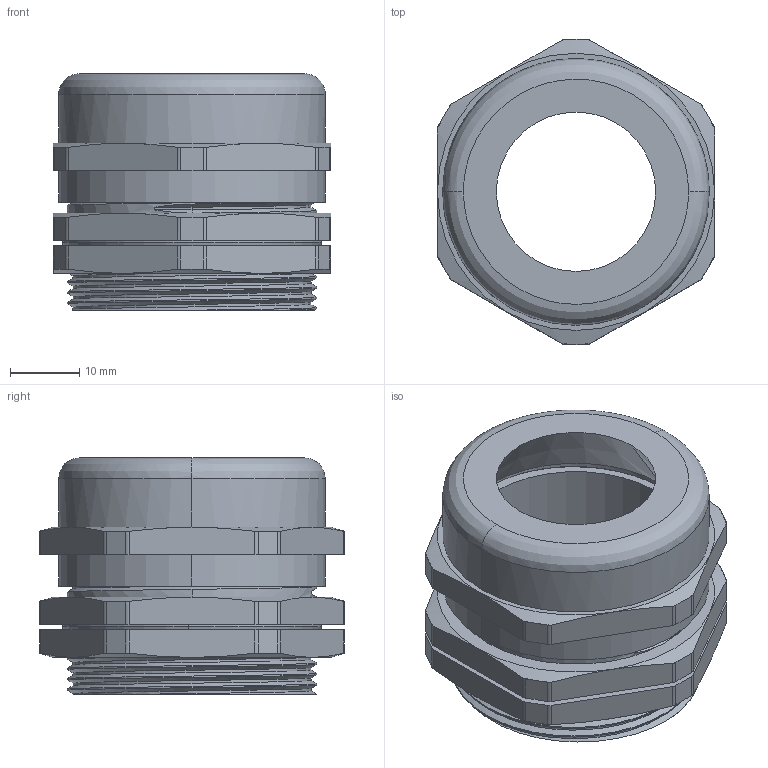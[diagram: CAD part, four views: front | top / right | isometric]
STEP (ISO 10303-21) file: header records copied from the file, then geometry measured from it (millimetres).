
FILE_DESCRIPTION (( 'STEP AP214' ), '1' );
FILE_NAME ('R5BCM36.STEP', '2022-10-11T06:41:23', ( '' ), ( '' ), 'SwSTEP 2.0', 'SolidWorks 2022', '' );
FILE_SCHEMA (( 'AUTOMOTIVE_DESIGN' ));
Length unit declared in the file: millimetre
Products named in the file (5): Уплотнительное кольцо_R5BCM36; R5BCM36; Фиксирующая гайка_R5BCM36; Крышка_R5BCM36; Корпус_R5BCM36
Assembly tree (4 placements, depth 2):
  R5BCM36
    Корпус_R5BCM36
    Уплотнительное кольцо_R5BCM36
    Фиксирующая гайка_R5BCM36
    Крышка_R5BCM36
Bounding box: 40 x 44 x 34.1 mm (x, y, z)
Volume: 14498.5 mm3; surface area: 16418.4 mm2
Topology: 4 solids, 4 shells, 227 faces, 592 edges, 376 vertices
Faces by surface type: plane 93, cylinder 92, cone 22, bspline 14, torus 6
Entity records: 15362 total; most frequent: CARTESIAN_POINT 10014, ORIENTED_EDGE 1184, DIRECTION 997, EDGE_CURVE 592, AXIS2_PLACEMENT_3D 390, VERTEX_POINT 376, EDGE_LOOP 238, ADVANCED_FACE 227
